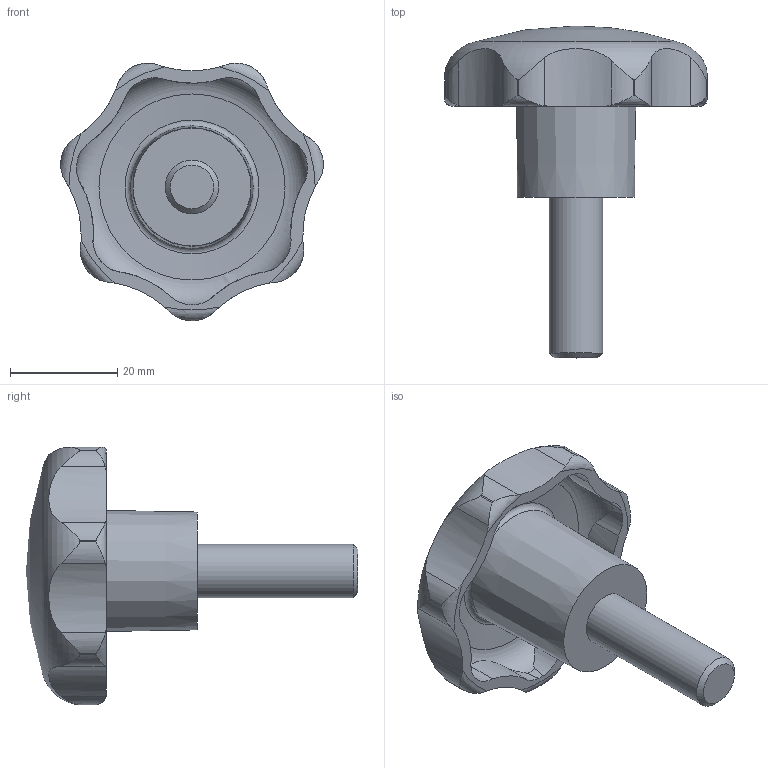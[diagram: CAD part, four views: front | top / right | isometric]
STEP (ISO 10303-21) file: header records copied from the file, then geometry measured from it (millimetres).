
FILE_DESCRIPTION( ( 'STEP AP203' ), '1' );
FILE_NAME( 'C:/Temp/Ganter_Step_05_03_2020/data/2_2/gn_6336_4/gn_6336_4_st/Star knob GN 6336.4-ST-50-M10-30.stp', '2020-03-05T12:07:37', ( 'License CC BY-ND 4.0' ), ( 'CADENAS' ), ' ', 'PARTsolutions', ' ' );
FILE_SCHEMA( ( 'CONFIG_CONTROL_DESIGN' ) );
Length unit declared in the file: millimetre
Products named in the file (1): _Star knob GN 6336.4-ST-50-M10-30
Bounding box: 49.04 x 62 x 48.12 mm (x, y, z)
Volume: 23504.1 mm3; surface area: 8391.8 mm2
Topology: 1 solids, 1 shells, 74 faces, 209 edges, 138 vertices
Faces by surface type: cylinder 50, torus 10, cone 10, plane 3, sphere 1
Full cylindrical faces by diameter (mm): 10 x1
Entity records: 3234 total; most frequent: CARTESIAN_POINT 1425, ORIENTED_EDGE 394, DIRECTION 334, EDGE_CURVE 197, AXIS2_PLACEMENT_3D 146, VERTEX_POINT 135, B_SPLINE_CURVE_WITH_KNOTS 84, EDGE_LOOP 83
